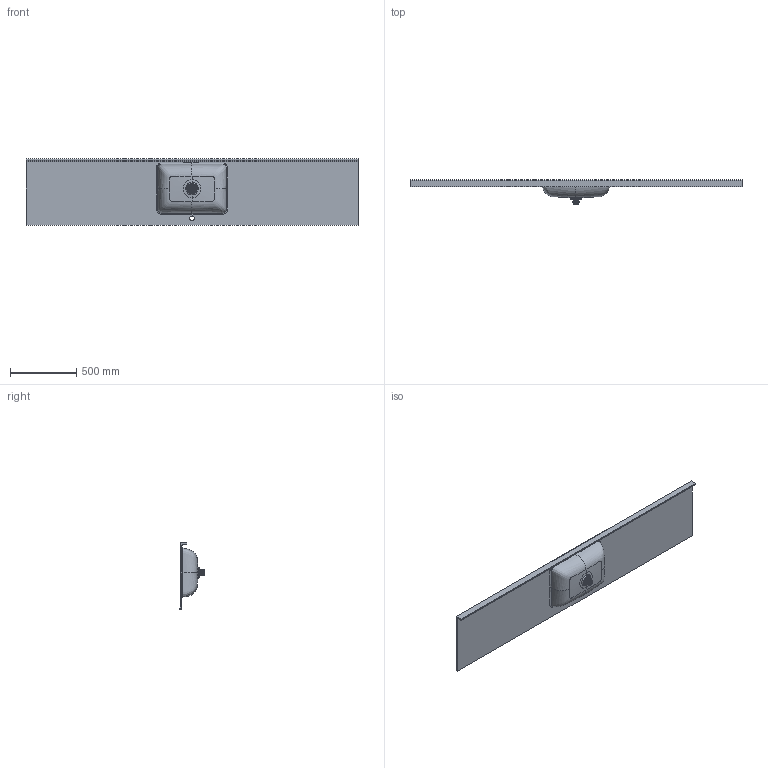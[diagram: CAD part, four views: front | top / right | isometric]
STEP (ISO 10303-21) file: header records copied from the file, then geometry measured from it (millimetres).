
FILE_DESCRIPTION (( 'STEP AP203' ), '1' );
FILE_NAME ('MESA50-M.STEP', '2021-09-10T10:25:26', ( '' ), ( '' ), 'SwSTEP 2.0', 'SolidWorks 2020', '' );
FILE_SCHEMA (( 'CONFIG_CONTROL_DESIGN' ));
Length unit declared in the file: millimetre
Products named in the file (1): MESA50-M
Bounding box: 2500 x 186.26 x 500 mm (x, y, z)
Volume: 17689626.6 mm3; surface area: 3037028.4 mm2
Topology: 8 solids, 8 shells, 359 faces, 992 edges, 643 vertices
Faces by surface type: cylinder 151, plane 70, bspline 61, torus 37, cone 32, sphere 8
Entity records: 99138 total; most frequent: CARTESIAN_POINT 90553, ORIENTED_EDGE 1984, DIRECTION 1613, EDGE_CURVE 992, AXIS2_PLACEMENT_3D 644, VERTEX_POINT 643, EDGE_LOOP 393, FACE_OUTER_BOUND 359
